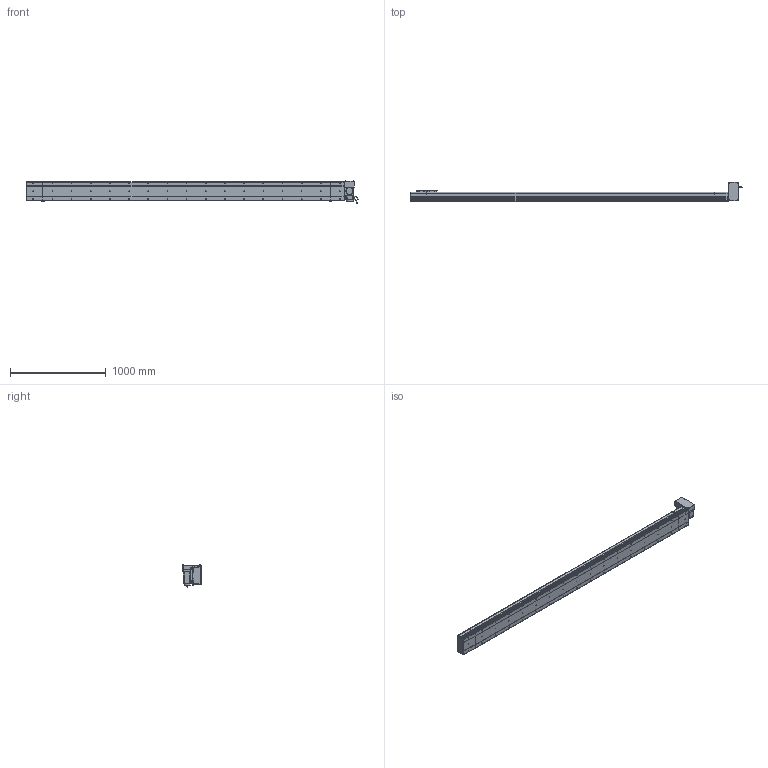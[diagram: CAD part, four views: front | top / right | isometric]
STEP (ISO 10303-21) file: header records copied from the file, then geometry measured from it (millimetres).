
FILE_DESCRIPTION (( 'STEP AP214' ), '1' );
FILE_NAME ('D20 CBH LT S3000.STEP', '2010-06-30T10:39:12', ( 'Conseil Régional Haute-Normandie' ), ( 'Conseil Régional Haute-Normandie' ), 'SwSTEP 2.0', 'SolidWorks 2010', '' );
FILE_SCHEMA (( 'AUTOMOTIVE_DESIGN' ));
Length unit declared in the file: millimetre
Products named in the file (31): Cache Support Moteur LT_Default; Plaque De Serrage D20_Default; Corp Tail D20_Default; Tail D20_Default; Glissiere_Default; Chariot D20_Default; vis M5 L47_Default; vis M5 L30_Default; Couvercle S3000_Default; ecrou_Default; Corp S3000_Default; vis M5 L15_Default; Plaque de Bout Tail D20_Default; Couvercle_Default; Support Chariot D20_Default; Corp D20 S3000_Default; Corp Tail D20 LT_Default; Head LT_Default; Couvercle LT_Default; Plaque de Bout Head D20 LT_Default; Plaque De Serrage D20 LT_Default; D20 CBH LT S3000; Rondelle Cache D20 LT_Default; Moteur motionking 90BLDC125A-640; Support moteur LT_Default; corps 90BLDC125A-640; avant 90BLDC125A-640; Conecteur_Default; Conecteur2_Default; codeur 90BLDC125-640
Assembly tree (66 placements, depth 4):
  D20 CBH LT S3000
    Tail D20_Default
      vis M5 L15_Default  x6
      Corp Tail D20_Default
      Plaque De Serrage D20_Default
      Couvercle_Default
      Plaque de Bout Tail D20_Default
    Corp D20 S3000_Default
      Corp S3000_Default
      Couvercle S3000_Default
    Chariot D20_Default
      vis M5 L15_Default  x8
      Chariot D20_Default
      Glissiere_Default
      Support Chariot D20_Default
    Head LT_Default
      Corp Tail D20 LT_Default
      Support moteur LT_Default
      vis M5 L15_Default  x12
      Plaque De Serrage D20 LT_Default
      vis M5 L47_Default  x4
      Rondelle Cache D20 LT_Default  x3
      ecrou_Default  x4
      Cache Support Moteur LT_Default
      Couvercle LT_Default
      Moteur motionking 90BLDC125A-640
        corps 90BLDC125A-640
        Conecteur_Default
        avant 90BLDC125A-640
        codeur 90BLDC125-640
        Conecteur2_Default
      vis M5 L30_Default  x4
      Plaque de Bout Head D20 LT_Default
Bounding box: 3463.45 x 202.5 x 229.7 mm (x, y, z)
Volume: 23164982.9 mm3; surface area: 4469410.8 mm2
Topology: 103 solids, 103 shells, 3828 faces, 9566 edges, 6220 vertices
Faces by surface type: plane 2113, bspline 806, cylinder 746, torus 91, cone 68, sphere 4
Entity records: 162070 total; most frequent: CARTESIAN_POINT 83458, ORIENTED_EDGE 15600, DIRECTION 11904, EDGE_CURVE 7800, VERTEX_POINT 5164, VECTOR 4976, LINE 4976, AXIS2_PLACEMENT_3D 3464
